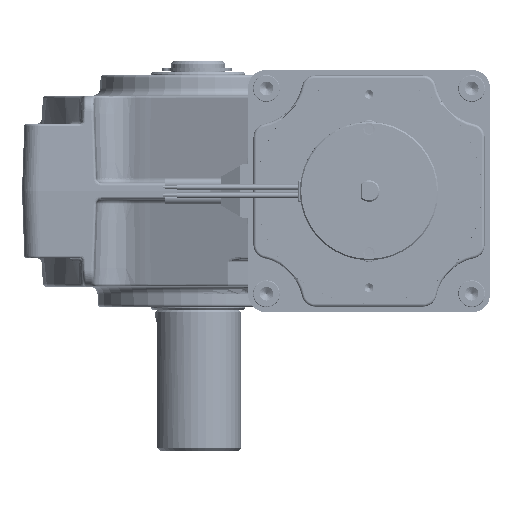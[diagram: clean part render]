
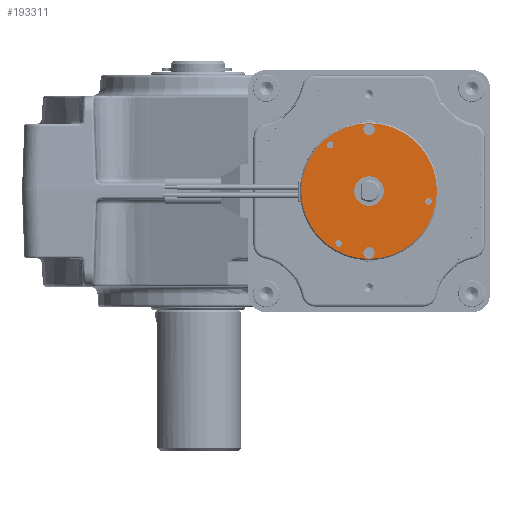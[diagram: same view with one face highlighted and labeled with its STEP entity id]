
A CAD part, left-side view. The second image highlights one B-rep face of the part: STEP entity #193311.
In plain terms, the highlighted planar face has unit normal (-1, 0, 0).
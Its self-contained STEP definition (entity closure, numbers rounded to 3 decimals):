
#342 = CARTESIAN_POINT ( 'NONE',  ( -315.959, -15.466, 15.535 ) ) ;
#3071 = EDGE_CURVE ( 'NONE', #179475, #242377, #262600, .T. ) ;
#3514 = CARTESIAN_POINT ( 'NONE',  ( -315.959, -50.864, 34.559 ) ) ;
#8087 = EDGE_CURVE ( 'NONE', #37662, #96699, #75382, .T. ) ;
#9561 = VERTEX_POINT ( 'NONE', #114334 ) ;
#10825 = DIRECTION ( 'NONE',  ( 1., 0., 0. ) ) ;
#16096 = AXIS2_PLACEMENT_3D ( 'NONE', #204472, #252297, #32460 ) ;
#20595 = CARTESIAN_POINT ( 'NONE',  ( -315.959, -30.841, 42.165 ) ) ;
#25558 = CARTESIAN_POINT ( 'NONE',  ( -315.959, -28.091, 37.402 ) ) ;
#25917 = CIRCLE ( 'NONE', #204018, 1.229 ) ;
#28338 = AXIS2_PLACEMENT_3D ( 'NONE', #25558, #97176, #71780 ) ;
#28455 = CARTESIAN_POINT ( 'NONE',  ( -315.959, -40.716, 59.269 ) ) ;
#29041 = VERTEX_POINT ( 'NONE', #220394 ) ;
#30120 = DIRECTION ( 'NONE',  ( 1., 0., 0. ) ) ;
#31157 = ORIENTED_EDGE ( 'NONE', *, *, #178098, .T. ) ;
#32460 = DIRECTION ( 'NONE',  ( 0., -0.5, 0.866 ) ) ;
#34585 = AXIS2_PLACEMENT_3D ( 'NONE', #303267, #85056, #104236 ) ;
#37662 = VERTEX_POINT ( 'NONE', #140633 ) ;
#39027 = CARTESIAN_POINT ( 'NONE',  ( -315.959, -25.341, 32.639 ) ) ;
#40810 = ORIENTED_EDGE ( 'NONE', *, *, #266952, .T. ) ;
#41689 = ORIENTED_EDGE ( 'NONE', *, *, #245898, .T. ) ;
#44867 = FACE_BOUND ( 'NONE', #250456, .T. ) ;
#52953 = CARTESIAN_POINT ( 'NONE',  ( -315.959, -29.141, 62.22 ) ) ;
#55400 = ORIENTED_EDGE ( 'NONE', *, *, #255953, .T. ) ;
#61668 = EDGE_LOOP ( 'NONE', ( #209656, #297237 ) ) ;
#64377 = VERTEX_POINT ( 'NONE', #93566 ) ;
#70330 = FACE_BOUND ( 'NONE', #286733, .T. ) ;
#70460 = AXIS2_PLACEMENT_3D ( 'NONE', #228391, #301401, #83136 ) ;
#71780 = DIRECTION ( 'NONE',  ( 0., -0.5, 0.866 ) ) ;
#73499 = CARTESIAN_POINT ( 'NONE',  ( -315.959, -28.091, 37.402 ) ) ;
#74327 = AXIS2_PLACEMENT_3D ( 'NONE', #73499, #218634, #170759 ) ;
#75382 = CIRCLE ( 'NONE', #243319, 1.23 ) ;
#76075 = EDGE_CURVE ( 'NONE', #205552, #107684, #301495, .T. ) ;
#80004 = DIRECTION ( 'NONE',  ( 1., 0., 0. ) ) ;
#83136 = DIRECTION ( 'NONE',  ( 0., -0.5, 0.866 ) ) ;
#85056 = DIRECTION ( 'NONE',  ( 1., 0., 0. ) ) ;
#93027 = ORIENTED_EDGE ( 'NONE', *, *, #189187, .T. ) ;
#93566 = CARTESIAN_POINT ( 'NONE',  ( -315.959, -27.041, 58.583 ) ) ;
#94888 = CARTESIAN_POINT ( 'NONE',  ( -315.959, -16.841, 17.916 ) ) ;
#96699 = VERTEX_POINT ( 'NONE', #126700 ) ;
#97062 = DIRECTION ( 'NONE',  ( -1., 0., 0. ) ) ;
#97176 = DIRECTION ( 'NONE',  ( 1., 0., 0. ) ) ;
#100863 = EDGE_CURVE ( 'NONE', #215376, #9561, #299430, .T. ) ;
#101527 = CIRCLE ( 'NONE', #264386, 1.23 ) ;
#101646 = DIRECTION ( 'NONE',  ( 0., -0.5, 0.866 ) ) ;
#103430 = AXIS2_PLACEMENT_3D ( 'NONE', #221366, #195761, #218242 ) ;
#104236 = DIRECTION ( 'NONE',  ( 0., -0.5, 0.866 ) ) ;
#106958 = ORIENTED_EDGE ( 'NONE', *, *, #8087, .T. ) ;
#107684 = VERTEX_POINT ( 'NONE', #342 ) ;
#114334 = CARTESIAN_POINT ( 'NONE',  ( -315.959, -29.141, 16.22 ) ) ;
#120050 = VERTEX_POINT ( 'NONE', #150837 ) ;
#121031 = DIRECTION ( 'NONE',  ( 0., -0.5, 0.866 ) ) ;
#122795 = DIRECTION ( 'NONE',  ( 1., 0., 0. ) ) ;
#125246 = CIRCLE ( 'NONE', #74327, 25.25 ) ;
#126700 = CARTESIAN_POINT ( 'NONE',  ( -315.959, -14.243, 55.702 ) ) ;
#140054 = VERTEX_POINT ( 'NONE', #3514 ) ;
#140633 = CARTESIAN_POINT ( 'NONE',  ( -315.959, -13.013, 53.573 ) ) ;
#142071 = DIRECTION ( 'NONE',  ( 0., -0.5, 0.866 ) ) ;
#142209 = AXIS2_PLACEMENT_3D ( 'NONE', #222925, #10825, #101646 ) ;
#143396 = CARTESIAN_POINT ( 'NONE',  ( -315.959, -28.091, 37.402 ) ) ;
#145724 = AXIS2_PLACEMENT_3D ( 'NONE', #247424, #80004, #151784 ) ;
#145878 = ORIENTED_EDGE ( 'NONE', *, *, #210060, .T. ) ;
#148360 = VERTEX_POINT ( 'NONE', #52953 ) ;
#148945 = AXIS2_PLACEMENT_3D ( 'NONE', #143396, #97062, #121031 ) ;
#150837 = CARTESIAN_POINT ( 'NONE',  ( -315.959, -17.455, 18.981 ) ) ;
#151784 = DIRECTION ( 'NONE',  ( 0., -0.5, 0.866 ) ) ;
#157579 = ORIENTED_EDGE ( 'NONE', *, *, #207644, .T. ) ;
#161772 = CIRCLE ( 'NONE', #34585, 2.1 ) ;
#162199 = ORIENTED_EDGE ( 'NONE', *, *, #3071, .T. ) ;
#164867 = CARTESIAN_POINT ( 'NONE',  ( -315.959, -49.634, 32.43 ) ) ;
#167589 = FACE_OUTER_BOUND ( 'NONE', #61668, .T. ) ;
#169148 = CARTESIAN_POINT ( 'NONE',  ( -315.959, -30.841, 42.165 ) ) ;
#170759 = DIRECTION ( 'NONE',  ( 0., -0.5, 0.866 ) ) ;
#171080 = AXIS2_PLACEMENT_3D ( 'NONE', #206462, #278100, #185710 ) ;
#174018 = EDGE_CURVE ( 'NONE', #107684, #205552, #125246, .T. ) ;
#175129 = CARTESIAN_POINT ( 'NONE',  ( -315.959, -13.628, 54.638 ) ) ;
#175532 = CARTESIAN_POINT ( 'NONE',  ( -315.959, -13.628, 54.638 ) ) ;
#176209 = EDGE_LOOP ( 'NONE', ( #212100, #212903 ) ) ;
#177424 = ORIENTED_EDGE ( 'NONE', *, *, #100863, .T. ) ;
#178098 = EDGE_CURVE ( 'NONE', #64377, #148360, #161772, .T. ) ;
#179475 = VERTEX_POINT ( 'NONE', #20595 ) ;
#185710 = DIRECTION ( 'NONE',  ( 0., -0.5, 0.866 ) ) ;
#189187 = EDGE_CURVE ( 'NONE', #242377, #179475, #303016, .T. ) ;
#193311 = ADVANCED_FACE ( 'NONE', ( #312408, #288598, #70330, #291665, #167589, #264647, #44867 ), #263116, .F. ) ;
#194132 = CIRCLE ( 'NONE', #16096, 1.23 ) ;
#195761 = DIRECTION ( 'NONE',  ( 1., 0., 0. ) ) ;
#204018 = AXIS2_PLACEMENT_3D ( 'NONE', #94888, #265380, #270066 ) ;
#204472 = CARTESIAN_POINT ( 'NONE',  ( -315.959, -50.249, 33.495 ) ) ;
#205552 = VERTEX_POINT ( 'NONE', #28455 ) ;
#206462 = CARTESIAN_POINT ( 'NONE',  ( -315.959, -28.091, 14.402 ) ) ;
#206746 = AXIS2_PLACEMENT_3D ( 'NONE', #211994, #261220, #310518 ) ;
#207644 = EDGE_CURVE ( 'NONE', #148360, #64377, #222276, .T. ) ;
#209656 = ORIENTED_EDGE ( 'NONE', *, *, #76075, .T. ) ;
#210060 = EDGE_CURVE ( 'NONE', #96699, #37662, #101527, .T. ) ;
#211994 = CARTESIAN_POINT ( 'NONE',  ( -315.959, -28.091, 37.402 ) ) ;
#212100 = ORIENTED_EDGE ( 'NONE', *, *, #303766, .T. ) ;
#212903 = ORIENTED_EDGE ( 'NONE', *, *, #301929, .T. ) ;
#215376 = VERTEX_POINT ( 'NONE', #308873 ) ;
#218242 = DIRECTION ( 'NONE',  ( 0., -0.5, 0.866 ) ) ;
#218634 = DIRECTION ( 'NONE',  ( -1., 0., 0. ) ) ;
#220394 = CARTESIAN_POINT ( 'NONE',  ( -315.959, -16.226, 16.851 ) ) ;
#221366 = CARTESIAN_POINT ( 'NONE',  ( -315.959, -16.841, 17.916 ) ) ;
#222276 = CIRCLE ( 'NONE', #145724, 2.1 ) ;
#222925 = CARTESIAN_POINT ( 'NONE',  ( -315.959, -50.249, 33.495 ) ) ;
#224715 = VERTEX_POINT ( 'NONE', #164867 ) ;
#225777 = CIRCLE ( 'NONE', #103430, 1.229 ) ;
#228391 = CARTESIAN_POINT ( 'NONE',  ( -315.959, -28.091, 14.402 ) ) ;
#242377 = VERTEX_POINT ( 'NONE', #39027 ) ;
#243319 = AXIS2_PLACEMENT_3D ( 'NONE', #175532, #271044, #301199 ) ;
#244205 = EDGE_LOOP ( 'NONE', ( #157579, #31157 ) ) ;
#245898 = EDGE_CURVE ( 'NONE', #224715, #140054, #279534, .T. ) ;
#247424 = CARTESIAN_POINT ( 'NONE',  ( -315.959, -28.091, 60.402 ) ) ;
#250456 = EDGE_LOOP ( 'NONE', ( #55400, #177424 ) ) ;
#252239 = CIRCLE ( 'NONE', #171080, 2.1 ) ;
#252297 = DIRECTION ( 'NONE',  ( 1., 0., 0. ) ) ;
#255953 = EDGE_CURVE ( 'NONE', #9561, #215376, #252239, .T. ) ;
#261220 = DIRECTION ( 'NONE',  ( 1., 0., 0. ) ) ;
#262600 = CIRCLE ( 'NONE', #206746, 5.5 ) ;
#262908 = AXIS2_PLACEMENT_3D ( 'NONE', #169148, #122795, #142071 ) ;
#263116 = PLANE ( 'NONE',  #262908 ) ;
#264386 = AXIS2_PLACEMENT_3D ( 'NONE', #175129, #30120, #278525 ) ;
#264647 = FACE_BOUND ( 'NONE', #244205, .T. ) ;
#265380 = DIRECTION ( 'NONE',  ( 1., 0., 0. ) ) ;
#266952 = EDGE_CURVE ( 'NONE', #140054, #224715, #194132, .T. ) ;
#269241 = EDGE_LOOP ( 'NONE', ( #162199, #93027 ) ) ;
#270066 = DIRECTION ( 'NONE',  ( 0., -0.5, 0.866 ) ) ;
#271044 = DIRECTION ( 'NONE',  ( 1., 0., 0. ) ) ;
#278100 = DIRECTION ( 'NONE',  ( 1., 0., 0. ) ) ;
#278525 = DIRECTION ( 'NONE',  ( 0., -0.5, 0.866 ) ) ;
#279534 = CIRCLE ( 'NONE', #142209, 1.23 ) ;
#286733 = EDGE_LOOP ( 'NONE', ( #40810, #41689 ) ) ;
#288598 = FACE_BOUND ( 'NONE', #176209, .T. ) ;
#291665 = FACE_BOUND ( 'NONE', #292332, .T. ) ;
#292332 = EDGE_LOOP ( 'NONE', ( #145878, #106958 ) ) ;
#297237 = ORIENTED_EDGE ( 'NONE', *, *, #174018, .T. ) ;
#299430 = CIRCLE ( 'NONE', #70460, 2.1 ) ;
#301199 = DIRECTION ( 'NONE',  ( 0., -0.5, 0.866 ) ) ;
#301401 = DIRECTION ( 'NONE',  ( 1., 0., 0. ) ) ;
#301495 = CIRCLE ( 'NONE', #148945, 25.25 ) ;
#301929 = EDGE_CURVE ( 'NONE', #29041, #120050, #25917, .T. ) ;
#303016 = CIRCLE ( 'NONE', #28338, 5.5 ) ;
#303267 = CARTESIAN_POINT ( 'NONE',  ( -315.959, -28.091, 60.402 ) ) ;
#303766 = EDGE_CURVE ( 'NONE', #120050, #29041, #225777, .T. ) ;
#308873 = CARTESIAN_POINT ( 'NONE',  ( -315.959, -27.041, 12.583 ) ) ;
#310518 = DIRECTION ( 'NONE',  ( 0., -0.5, 0.866 ) ) ;
#312408 = FACE_BOUND ( 'NONE', #269241, .T. ) ;
